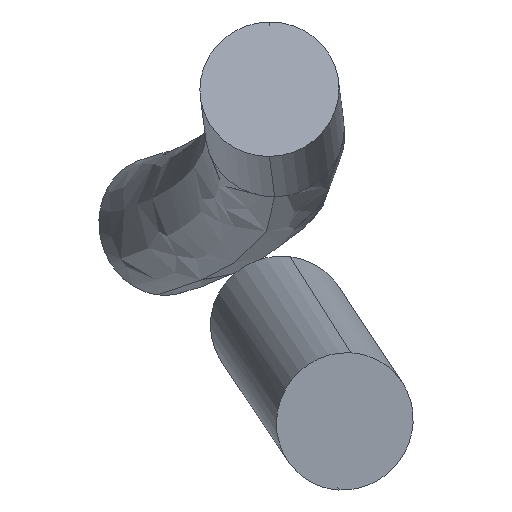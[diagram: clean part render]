
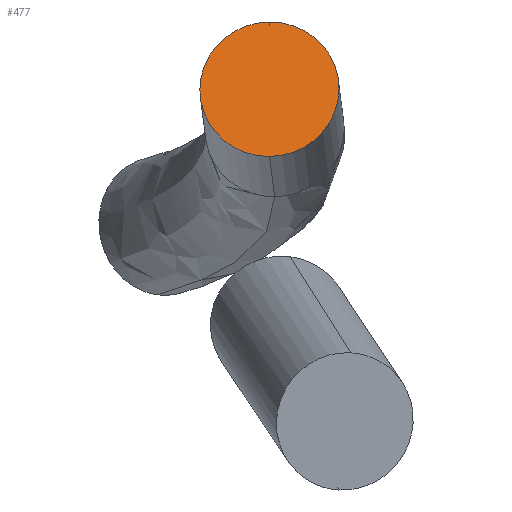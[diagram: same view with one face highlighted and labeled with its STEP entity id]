
A CAD part, top view. The second image highlights one B-rep face of the part: STEP entity #477.
In plain terms, the highlighted planar face has unit normal (-0.034, 0.259, 0.965).
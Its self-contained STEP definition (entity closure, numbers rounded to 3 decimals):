
#179 = DIRECTION ( 'NONE',  ( -0.034, 0.259, 0.965 ) ) ;
#284 = DIRECTION ( 'NONE',  ( -0.034, 0.259, 0.965 ) ) ;
#299 = CARTESIAN_POINT ( 'NONE',  ( 257.524, -241.903, 877.529 ) ) ;
#477 = ADVANCED_FACE ( 'NONE', ( #1865 ), #1645, .T. ) ;
#743 = VERTEX_POINT ( 'NONE', #2344 ) ;
#758 = EDGE_LOOP ( 'NONE', ( #1309, #934 ) ) ;
#791 = AXIS2_PLACEMENT_3D ( 'NONE', #1234, #871, #1453 ) ;
#871 = DIRECTION ( 'NONE',  ( -0.034, 0.259, 0.965 ) ) ;
#934 = ORIENTED_EDGE ( 'NONE', *, *, #2033, .T. ) ;
#1009 = EDGE_CURVE ( 'NONE', #743, #1166, #1444, .T. ) ;
#1085 = DIRECTION ( 'NONE',  ( 0., -0.966, 0.259 ) ) ;
#1166 = VERTEX_POINT ( 'NONE', #2544 ) ;
#1207 = CARTESIAN_POINT ( 'NONE',  ( 257.524, -241.903, 877.529 ) ) ;
#1234 = CARTESIAN_POINT ( 'NONE',  ( 257.524, -241.903, 877.529 ) ) ;
#1309 = ORIENTED_EDGE ( 'NONE', *, *, #1009, .T. ) ;
#1378 = DIRECTION ( 'NONE',  ( 0., -0.966, 0.259 ) ) ;
#1444 = CIRCLE ( 'NONE', #1850, 22.5 ) ;
#1453 = DIRECTION ( 'NONE',  ( 0., -0.966, 0.259 ) ) ;
#1566 = CIRCLE ( 'NONE', #791, 22.5 ) ;
#1600 = AXIS2_PLACEMENT_3D ( 'NONE', #299, #284, #1085 ) ;
#1645 = PLANE ( 'NONE',  #1600 ) ;
#1850 = AXIS2_PLACEMENT_3D ( 'NONE', #1207, #179, #1378 ) ;
#1865 = FACE_OUTER_BOUND ( 'NONE', #758, .T. ) ;
#2033 = EDGE_CURVE ( 'NONE', #1166, #743, #1566, .T. ) ;
#2344 = CARTESIAN_POINT ( 'NONE',  ( 257.524, -220.171, 871.702 ) ) ;
#2544 = CARTESIAN_POINT ( 'NONE',  ( 257.524, -263.635, 883.355 ) ) ;
